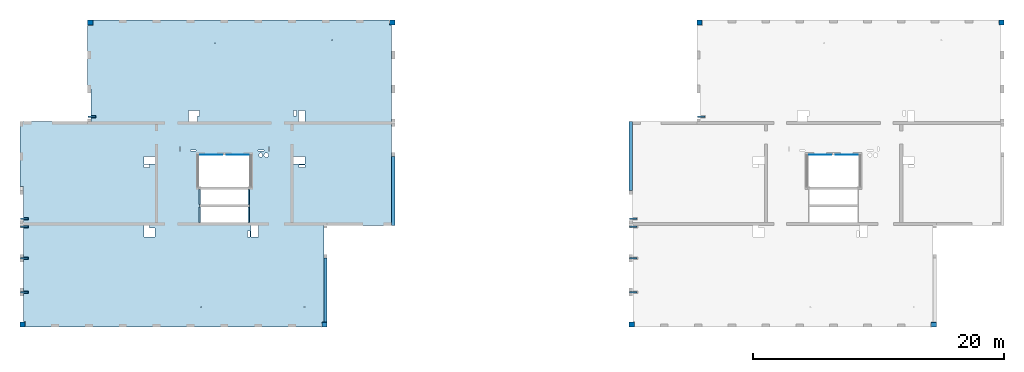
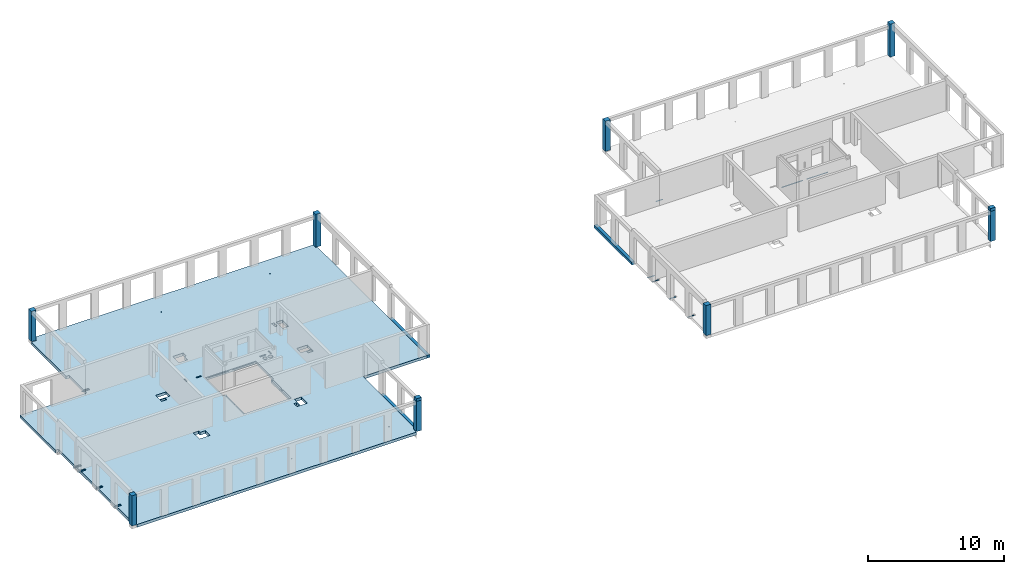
# One storey, part 1 of 8: 14 beams, 10 columns, 4 slabs, 34 openings.
"""IFC2X3 building model written with IfcOpenShell, lengths in millimetres."""

from ifc_helpers import new_model, entity, si_unit, converted_unit, derived_unit, direction, frame, frame_2d, origin, origin_2d_with_axis, place, context, subcontext, project, spatial, polyline, rectangle, circle, outline, extrude, source, transform, mapped, material, layer, layer_set, layer_usage, type_object, type_shapes, element, save


model = new_model("IFC2X3")

# Units and contexts
model_context = context("Model", 3, precision=0.01, world=origin(), true_north=direction((6.12303176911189e-17, 1.0)))
body_context = subcontext(model_context, "Body", "Model", "MODEL_VIEW")
ifc_project = project(units=[si_unit("LENGTHUNIT", "METRE", prefix="MILLI"), si_unit("AREAUNIT", "SQUARE_METRE"), si_unit("VOLUMEUNIT", "CUBIC_METRE"), converted_unit("PLANEANGLEUNIT", "DEGREE", entity("IfcRatioMeasure", 0.0174532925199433), si_unit("PLANEANGLEUNIT", "RADIAN"), dimensions=[0, 0, 0, 0, 0, 0, 0]), si_unit("MASSUNIT", "GRAM", prefix="KILO"), derived_unit("MASSDENSITYUNIT", [(si_unit("MASSUNIT", "GRAM", prefix="KILO"), 1), (si_unit("LENGTHUNIT", "METRE"), -3)]), si_unit("TIMEUNIT", "SECOND"), si_unit("FREQUENCYUNIT", "HERTZ"), si_unit("THERMODYNAMICTEMPERATUREUNIT", "DEGREE_CELSIUS"), derived_unit("THERMALTRANSMITTANCEUNIT", [(si_unit("MASSUNIT", "GRAM", prefix="KILO"), 1), (si_unit("THERMODYNAMICTEMPERATUREUNIT", "KELVIN"), -1), (si_unit("TIMEUNIT", "SECOND"), -3)]), derived_unit("VOLUMETRICFLOWRATEUNIT", [(si_unit("LENGTHUNIT", "METRE"), 3), (si_unit("TIMEUNIT", "SECOND"), -1)]), si_unit("ELECTRICCURRENTUNIT", "AMPERE"), si_unit("ELECTRICVOLTAGEUNIT", "VOLT"), si_unit("POWERUNIT", "WATT"), si_unit("FORCEUNIT", "NEWTON", prefix="KILO"), si_unit("ILLUMINANCEUNIT", "LUX"), si_unit("LUMINOUSFLUXUNIT", "LUMEN"), si_unit("LUMINOUSINTENSITYUNIT", "CANDELA"), derived_unit("USERDEFINED", [(si_unit("MASSUNIT", "GRAM", prefix="KILO"), -1), (si_unit("LENGTHUNIT", "METRE"), -2), (si_unit("TIMEUNIT", "SECOND"), 3), (si_unit("LUMINOUSFLUXUNIT", "LUMEN"), 1)]), derived_unit("LINEARVELOCITYUNIT", [(si_unit("LENGTHUNIT", "METRE"), 1), (si_unit("TIMEUNIT", "SECOND"), -1)]), si_unit("PRESSUREUNIT", "PASCAL"), derived_unit("USERDEFINED", [(si_unit("LENGTHUNIT", "METRE"), -2), (si_unit("MASSUNIT", "GRAM", prefix="KILO"), 1), (si_unit("TIMEUNIT", "SECOND"), -2)])], contexts=[model_context])

# Site, building, storey
site_placement = place(None, origin())
site = spatial("IfcSite", under=ifc_project, at=site_placement, Name="Default", CompositionType="ELEMENT")
building_placement = place(site_placement, origin())
building = spatial("IfcBuilding", under=site, at=building_placement, Name="niet gebruiken", CompositionType="ELEMENT")
storey_placement = place(building_placement, frame((0.0, 0.0, 48240.0)))
storey = spatial("IfcBuildingStorey", under=building, at=storey_placement, Name="16 zestiende verdieping", CompositionType="ELEMENT", Elevation=48240.0)

# Columns
ifc_material_1 = material(Name="NLRS_f2_beton prefab")
column_type_1 = type_object("IfcColumnType", Name="410x410", PredefinedType="COLUMN", material=ifc_material_1)
shared_shape_1 = source(origin(), body_context, "Body", "SweptSolid", [
    extrude(rectangle(XDim=410.0, YDim=410.0, at=origin_2d_with_axis()), frame((0.0, 0.0, 48170.0), z_axis=(0.0, 0.0, 1.0), x_axis=(0.0, -1.0, 0.0)), (0.0, 0.0, 1.0), 2699.99999999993),
])
type_shapes(column_type_1, [shared_shape_1])
for number, where, name in (
    (1, (99795.0, 28961.0, -48240.0), "NLRS_28. kolom vierkant_gen:410x410"),
    (2, (81105.0, 53051.0, -48240.0), "NLRS_28. kolom vierkant_gen:410x410"),
    (3, (51195.0, 28961.0, -48240.0), "NLRS_28. kolom vierkant_gen:410x410"),
    (4, (32505.0, 53051.0, -48240.0), "NLRS_28. kolom vierkant_gen:410x410"),
):
    element("IfcColumn", number, at=place(storey_placement, frame(where)), inside=storey, type_object=column_type_1, material=ifc_material_1, Name=name, ObjectType="410x410", context=body_context, shape_type="MappedRepresentation", body=[
        mapped(shared_shape_1, transform((0.0, 0.0, 0.0), scale=1.0)),
    ])
column_type_2 = type_object("IfcColumnType", Name="410x410", PredefinedType="COLUMN", material=ifc_material_1)
shared_shape_2 = source(origin(), body_context, "Body", "SweptSolid", [
    extrude(rectangle(XDim=410.0, YDim=410.0, at=origin_2d_with_axis()), frame((0.0, 0.0, 48170.0), z_axis=(0.0, 0.0, 1.0), x_axis=(0.0, -1.0, 0.0)), (0.0, 0.0, 1.0), 2700.0),
])
type_shapes(column_type_2, [shared_shape_2])
for number, where, z_axis, x_axis, name in (
    (5, (75705.0, 28961.0, -48240.0), (0.0, 0.0, 1.0), (0.0, 1.0, 0.0), "NLRS_28. kolom vierkant_gen1:410x410"),
    (6, (27105.0, 28961.0, -48240.0), (0.0, 0.0, 1.0), (0.0, 1.0, 0.0), "NLRS_28. kolom vierkant_gen1:410x410"),
):
    element("IfcColumn", number, at=place(storey_placement, frame(where, z_axis=z_axis, x_axis=x_axis)), inside=storey, type_object=column_type_2, material=ifc_material_1, Name=name, ObjectType="410x410", context=body_context, shape_type="MappedRepresentation", body=[
        mapped(shared_shape_2, transform((0.0, 0.0, 0.0), scale=1.0)),
    ])
column_type_3 = type_object("IfcColumnType", Name="410x410", PredefinedType="COLUMN", material=ifc_material_1)
shared_shape_3 = source(origin(), body_context, "Body", "SweptSolid", [
    extrude(rectangle(XDim=410.000000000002, YDim=409.999999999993, at=origin_2d_with_axis()), frame((105195.0, 53051.0, 48170.0), z_axis=(0.0, 0.0, 1.0), x_axis=(0.0, -1.0, 0.0)), (0.0, 0.0, 1.0), 2950.00000000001),
])
type_shapes(column_type_3, [shared_shape_3])
column_1_placement = place(storey_placement, frame((0.0, 0.0, -48240.0)))
element("IfcColumn", 7, at=column_1_placement, inside=storey, type_object=column_type_3, material=ifc_material_1, Name="NLRS_28. kolom vierkant_gen:410x410", ObjectType="410x410", context=body_context, shape_type="MappedRepresentation", body=[
    mapped(shared_shape_3, transform((0.0, 0.0, 0.0), scale=1.0)),
])
column_type_4 = type_object("IfcColumnType", Name="410x410", PredefinedType="COLUMN", material=ifc_material_1)
shared_shape_4 = source(origin(), body_context, "Body", "SweptSolid", [
    extrude(rectangle(XDim=410.000000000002, YDim=410.000000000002, at=frame_2d((8.66862137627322e-12, 0.0), x_axis=(1.0, 0.0))), frame((56595.0, 53051.0, 48170.0), z_axis=(0.0, 0.0, 1.0), x_axis=(0.0, -1.0, 0.0)), (0.0, 0.0, 1.0), 2950.00000000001),
])
type_shapes(column_type_4, [shared_shape_4])
column_2_placement = place(storey_placement, frame((0.0, 0.0, -48240.0)))
element("IfcColumn", 8, at=column_2_placement, inside=storey, type_object=column_type_4, material=ifc_material_1, Name="NLRS_28. kolom vierkant_gen:410x410", ObjectType="410x410", context=body_context, shape_type="MappedRepresentation", body=[
    mapped(shared_shape_4, transform((0.0, 0.0, 0.0), scale=1.0)),
])
column_type_5 = type_object("IfcColumnType", Name="410x360", PredefinedType="COLUMN", material=ifc_material_1)
shared_shape_5 = source(origin(), body_context, "Body", "SweptSolid", [
    extrude(rectangle(XDim=360.0, YDim=409.999999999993, at=origin_2d_with_axis()), frame((99795.0, 28936.0, 50870.0), z_axis=(0.0, 0.0, 1.0), x_axis=(0.0, -1.0, 0.0)), (0.0, 0.0, 1.0), 250.000000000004),
])
type_shapes(column_type_5, [shared_shape_5])
column_3_placement = place(storey_placement, frame((0.0, 0.0, -48240.0)))
element("IfcColumn", 9, at=column_3_placement, inside=storey, type_object=column_type_5, material=ifc_material_1, Name="NLRS_28. kolom vierkant_gen:410x360", ObjectType="410x360", context=body_context, shape_type="MappedRepresentation", body=[
    mapped(shared_shape_5, transform((0.0, 0.0, 0.0), scale=1.0)),
])
column_type_6 = type_object("IfcColumnType", Name="410x360", PredefinedType="COLUMN", material=ifc_material_1)
shared_shape_6 = source(origin(), body_context, "Body", "SweptSolid", [
    extrude(rectangle(XDim=360.0, YDim=410.000000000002, at=origin_2d_with_axis()), frame((51195.0, 28936.0, 50870.0), z_axis=(0.0, 0.0, 1.0), x_axis=(0.0, -1.0, 0.0)), (0.0, 0.0, 1.0), 250.000000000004),
])
type_shapes(column_type_6, [shared_shape_6])
column_4_placement = place(storey_placement, frame((0.0, 0.0, -48240.0)))
element("IfcColumn", 10, at=column_4_placement, inside=storey, type_object=column_type_6, material=ifc_material_1, Name="NLRS_28. kolom vierkant_gen:410x360", ObjectType="410x360", context=body_context, shape_type="MappedRepresentation", body=[
    mapped(shared_shape_6, transform((0.0, 0.0, 0.0), scale=1.0)),
])

# Beams
ifc_material_2 = material(Name="NLRS_h2_staal")
beam_type_1 = type_object("IfcBeamType", Name="ligger stripstaal RECT_120x10", PredefinedType="BEAM", material=ifc_material_2)
shared_shape_7 = source(origin(), body_context, "Body", "SweptSolid", [
    extrude(rectangle(XDim=599.999999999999, YDim=120.0, at=origin_2d_with_axis()), frame((0.0, 0.0, -5.0), z_axis=(0.0, 0.0, 1.0), x_axis=(-1.0, 0.0, 0.0)), (0.0, 0.0, 1.0), 9.99999999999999),
    extrude(rectangle(XDim=599.999999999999, YDim=120.0, at=origin_2d_with_axis()), frame((0.0, 0.0, -5.0), z_axis=(0.0, 0.0, 1.0), x_axis=(-1.0, 0.0, 0.0)), (0.0, 0.0, 1.0), 9.99999999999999),
])
type_shapes(beam_type_1, [shared_shape_7])
for number, where, name in (
    (11, (75835.0, 31556.0, -115.0), "NLRS_28.11_SF_WPB_stalen ligger stripstaal_gen:ligger stripstaal RECT_120x10"),
    (12, (75835.0, 34256.0, -115.0), "NLRS_28.11_SF_WPB_stalen ligger stripstaal_gen:ligger stripstaal RECT_120x10"),
    (13, (75835.0, 36766.0, -115.0), "NLRS_28.11_SF_WPB_stalen ligger stripstaal_gen:ligger stripstaal RECT_120x10"),
    (14, (27235.0, 31556.0, -115.0), "NLRS_28.11_SF_WPB_stalen ligger stripstaal_gen:ligger stripstaal RECT_120x10"),
    (15, (27235.0, 34256.0, -115.0), "NLRS_28.11_SF_WPB_stalen ligger stripstaal_gen:ligger stripstaal RECT_120x10"),
    (16, (27235.0, 36766.0, -115.0), "NLRS_28.11_SF_WPB_stalen ligger stripstaal_gen:ligger stripstaal RECT_120x10"),
):
    element("IfcBeam", number, at=place(storey_placement, frame(where)), inside=storey, type_object=beam_type_1, material=ifc_material_2, Name=name, ObjectType="ligger stripstaal RECT_120x10", context=body_context, shape_type="MappedRepresentation", body=[
        mapped(shared_shape_7, transform((0.0, 0.0, 0.0), scale=1.0)),
    ])
beam_type_2 = type_object("IfcBeamType", Name="NLRS_28.11_SF_WPB_Halfen 40-22_gen:ligger stripstaal RECT_100x10", PredefinedType="BEAM")
beam_1_placement = place(storey_placement, frame((89865.0, 42496.0, -160.0)))
element("IfcBeam", 17, at=beam_1_placement, inside=storey, type_object=beam_type_2, material=ifc_material_2, Name="NLRS_28.11_SF_WPB_Halfen 40-22_gen:ligger stripstaal RECT_100x10", ObjectType="NLRS_28.11_SF_WPB_Halfen 40-22_gen:ligger stripstaal RECT_100x10", context=body_context, shape_type="SweptSolid", body=[
    extrude(outline(polyline([(-20.0, -8.0), (-9.0, -8.0), (-9.0, 0.0), (-11.0, 0.0), (-11.0, -6.0), (-18.0, -6.0), (-18.0, 13.0), (18.0, 13.0), (18.0, -6.0), (11.0, -6.0), (11.0, 0.0), (9.0, 0.0), (9.0, -8.0), (20.0, -8.0), (20.0, 15.0), (-20.0, 15.0), (-20.0, -8.0)])), frame((0.0, 8.0, 20.0), z_axis=(1.0, 0.0, 0.0), x_axis=(0.0, 0.0, -1.0)), (0.0, 0.0, 1.0), 1760.00000000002),
])
beam_2_placement = place(storey_placement, frame((91975.0, 42496.0, -160.0)))
element("IfcBeam", 18, at=beam_2_placement, inside=storey, type_object=beam_type_2, material=ifc_material_2, Name="NLRS_28.11_SF_WPB_Halfen 40-22_gen:ligger stripstaal RECT_100x10", ObjectType="NLRS_28.11_SF_WPB_Halfen 40-22_gen:ligger stripstaal RECT_100x10", context=body_context, shape_type="SweptSolid", body=[
    extrude(outline(polyline([(-20.0, -8.0), (-9.0, -8.0), (-9.0, 0.0), (-11.0, 0.0), (-11.0, -6.0), (-18.0, -6.0), (-18.0, 13.0), (18.0, 13.0), (18.0, -6.0), (11.0, -6.0), (11.0, 0.0), (9.0, 0.0), (9.0, -8.0), (20.0, -8.0), (20.0, 15.0), (-20.0, 15.0), (-20.0, -8.0)])), frame((0.0, 8.0, 20.0), z_axis=(1.0, 0.0, 0.0), x_axis=(0.0, 0.0, -1.0)), (0.0, 0.0, 1.0), 1760.0),
])
for number, where, name in (
    (19, (41264.9998491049, 42496.0, -160.0), "NLRS_28.11_SF_WPB_Halfen 40-22_gen:ligger stripstaal RECT_100x10"),
    (20, (43374.999849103, 42496.0, -160.0), "NLRS_28.11_SF_WPB_Halfen 40-22_gen:ligger stripstaal RECT_100x10"),
):
    element("IfcBeam", number, at=place(storey_placement, frame(where)), inside=storey, type_object=beam_type_2, material=ifc_material_2, Name=name, ObjectType="NLRS_28.11_SF_WPB_Halfen 40-22_gen:ligger stripstaal RECT_100x10", context=body_context, shape_type="SweptSolid", body=[
        extrude(outline(polyline([(-20.0, -8.0), (-9.0, -8.0), (-9.0, 0.0), (-11.0, 0.0), (-11.0, -6.0), (-18.0, -6.0), (-18.0, 13.0), (18.0, 13.0), (18.0, -6.0), (11.0, -6.0), (11.0, 0.0), (9.0, 0.0), (9.0, -8.0), (20.0, -8.0), (20.0, 15.0), (-20.0, 15.0), (-20.0, -8.0)])), frame((0.0, 8.0, 20.0), z_axis=(1.0, 0.0, 0.0), x_axis=(0.0, 0.0, -1.0)), (0.0, 0.0, 1.0), 1760.00000000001),
    ])
beam_type_3 = type_object("IfcBeamType", Name="ligger stripstaal RECT_120x10", PredefinedType="BEAM", material=ifc_material_2)
shared_shape_8 = source(origin(), body_context, "Body", "SweptSolid", [
    extrude(rectangle(XDim=120.0, YDim=600.000000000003, at=origin_2d_with_axis()), frame((0.0, 0.0, -5.0), z_axis=(0.0, 0.0, 1.0), x_axis=(0.0, 1.0, 0.0)), (0.0, 0.0, 1.0), 9.99999999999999),
    extrude(rectangle(XDim=120.0, YDim=600.000000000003, at=origin_2d_with_axis()), frame((0.0, 0.0, -5.0), z_axis=(0.0, 0.0, 1.0), x_axis=(0.0, 1.0, 0.0)), (0.0, 0.0, 1.0), 9.99999999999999),
])
type_shapes(beam_type_3, [shared_shape_8])
for number, where, name in (
    (21, (75835.0, 37386.0, -115.0), "NLRS_28.11_SF_WPB_stalen ligger stripstaal_gen:ligger stripstaal RECT_120x10"),
    (22, (81235.0, 45521.0, -115.0), "NLRS_28.11_SF_WPB_stalen ligger stripstaal_gen:ligger stripstaal RECT_120x10"),
    (23, (27235.0, 37386.0, -115.0), "NLRS_28.11_SF_WPB_stalen ligger stripstaal_gen:ligger stripstaal RECT_120x10"),
    (24, (32635.0, 45521.0, -115.0), "NLRS_28.11_SF_WPB_stalen ligger stripstaal_gen:ligger stripstaal RECT_120x10"),
):
    element("IfcBeam", number, at=place(storey_placement, frame(where)), inside=storey, type_object=beam_type_3, material=ifc_material_2, Name=name, ObjectType="ligger stripstaal RECT_120x10", context=body_context, shape_type="MappedRepresentation", body=[
        mapped(shared_shape_8, transform((0.0, 0.0, 0.0), scale=1.0)),
    ])

# Slab, openings
ifc_material_3 = material(Name="NLRS_f2_beton ihwg")
ifc_layer = layer(ifc_material_3, 250.0)
ifc_layer_set = layer_set([ifc_layer], Name="Floor:NLRS_23.21_FL_beton ihwg d=250_gen")
ifc_layer_usage_1 = layer_usage(ifc_layer_set, "AXIS3", "POSITIVE", 0.0)
slab_1_placement = place(storey_placement, frame((26900.0, 28756.0, -340.0)))
slab_1 = element("IfcSlab", 25, at=slab_1_placement, inside=storey, material=ifc_layer_usage_1, Name="Floor:NLRS_23.21_FL_beton ihwg d=250_gen", ObjectType="Floor:NLRS_23.21_FL_beton ihwg d=250_gen", PredefinedType="FLOOR", context=body_context, shape_type="SweptSolid", body=[
    extrude(outline(polyline([(8994.99996701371, 12250.0), (-14665.0, 12250.0), (-14665.0, 11840.0), (-14805.0, 11840.0), (-14805.0, 4060.0), (-14825.0, 4060.0), (-14825.0, -4150.0), (-9425.0, -4150.0), (-9425.0, -11890.0), (-9265.0, -11890.0), (-9265.0, -12250.0), (14395.0, -12250.0), (14395.0, -11820.0), (14535.0, -11820.0), (14535.0, -4060.0), (14555.0, -4060.0), (14555.0, -1040.0), (14825.0, -1040.0), (14825.0, 4150.0), (9155.0, 4150.0), (9155.0, 6750.0), (9425.0, 6750.0), (9425.0, 11820.0), (8994.99996701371, 11820.0), (8994.99996701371, 12250.0)])), frame((14825.0, 12250.0, 250.0), z_axis=(0.0, 0.0, -1.0), x_axis=(-1.0, 0.0, 0.0)), (0.0, 0.0, 1.0), 250.000000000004),
])
opening_1_placement = place(storey_placement, frame((26900.0, 28756.0, -340.0)))
element("IfcOpeningElement", 26, at=opening_1_placement, cuts=slab_1, ObjectType="Opening", context=body_context, shape_type="SweptSolid", body=[
    extrude(circle(Radius=37.5, at=frame_2d((-7875.0, -10650.0), x_axis=(1.0, 0.0))), frame((14825.0, 12250.0, 250.0), z_axis=(0.0, 0.0, -1.0), x_axis=(-1.0, 0.0, 0.0)), (0.0, 0.0, 1.0), 250.000000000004),
])
opening_2_placement = place(storey_placement, frame((26900.0, 28756.0, -340.0)))
element("IfcOpeningElement", 27, at=opening_2_placement, cuts=slab_1, ObjectType="Opening", context=body_context, shape_type="SweptSolid", body=[
    extrude(circle(Radius=37.5, at=frame_2d((-10075.0, 10650.0), x_axis=(1.0, 0.0))), frame((14825.0, 12250.0, 250.0), z_axis=(0.0, 0.0, -1.0), x_axis=(-1.0, 0.0, 0.0)), (0.0, 0.0, 1.0), 250.000000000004),
])
opening_3_placement = place(storey_placement, frame((26900.0, 28756.0, -340.0)))
element("IfcOpeningElement", 28, at=opening_3_placement, cuts=slab_1, ObjectType="Opening", context=body_context, shape_type="SweptSolid", body=[
    extrude(circle(Radius=37.5, at=frame_2d((-725.0, 10400.0), x_axis=(1.0, 0.0))), frame((14825.0, 12250.0, 250.0), z_axis=(0.0, 0.0, -1.0), x_axis=(-1.0, 0.0, 0.0)), (0.0, 0.0, 1.0), 250.000000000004),
])
opening_4_placement = place(storey_placement, frame((26900.0, 28756.0, -340.0)))
element("IfcOpeningElement", 29, at=opening_4_placement, cuts=slab_1, ObjectType="Opening", context=body_context, shape_type="SweptSolid", body=[
    extrude(circle(Radius=37.5, at=frame_2d((375.0, -10650.0), x_axis=(1.0, 0.0))), frame((14825.0, 12250.0, 250.0), z_axis=(0.0, 0.0, -1.0), x_axis=(-1.0, 0.0, 0.0)), (0.0, 0.0, 1.0), 250.000000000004),
])
opening_5_placement = place(slab_1_placement, origin())
element("IfcOpeningElement", 30, at=opening_5_placement, cuts=slab_1, ObjectType="Opening", context=body_context, shape_type="SweptSolid", body=[
    extrude(rectangle(XDim=110.000000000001, YDim=1220.0, at=origin_2d_with_axis()), frame((14344.9999671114, 10380.0, 210.0)), (0.0, 0.0, 1.0), 39.9999999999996),
])
opening_6_placement = place(slab_1_placement, origin())
element("IfcOpeningElement", 31, at=opening_6_placement, cuts=slab_1, ObjectType="Opening", context=body_context, shape_type="SweptSolid", body=[
    extrude(rectangle(XDim=110.000000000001, YDim=1220.0, at=origin_2d_with_axis()), frame((18255.0, 10380.0, 210.0)), (0.0, 0.0, 1.0), 39.9999999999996),
])
opening_7_placement = place(slab_1_placement, origin())
element("IfcOpeningElement", 32, at=opening_7_placement, cuts=slab_1, ObjectType="Opening", context=body_context, shape_type="SweptSolid", body=[
    extrude(rectangle(XDim=110.000000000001, YDim=1220.0, at=origin_2d_with_axis()), frame((18255.0, 8960.0, 210.0)), (0.0, 0.0, 1.0), 39.9999999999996),
])
opening_8_placement = place(slab_1_placement, origin())
element("IfcOpeningElement", 33, at=opening_8_placement, cuts=slab_1, ObjectType="Opening", context=body_context, shape_type="SweptSolid", body=[
    extrude(rectangle(XDim=110.000000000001, YDim=1220.0, at=origin_2d_with_axis()), frame((14344.9999671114, 8960.0, 210.0)), (0.0, 0.0, 1.0), 39.9999999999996),
])
opening_9_placement = place(slab_1_placement, origin())
element("IfcOpeningElement", 34, at=opening_9_placement, cuts=slab_1, ObjectType="Opening", context=body_context, shape_type="SweptSolid", body=[
    extrude(rectangle(XDim=400.000000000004, YDim=200.000000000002, at=origin_2d_with_axis()), frame((470.0, 8630.0, 220.0)), (0.0, 0.0, 1.0), 30.0000000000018),
])
opening_10_placement = place(slab_1_placement, origin())
element("IfcOpeningElement", 35, at=opening_10_placement, cuts=slab_1, ObjectType="Opening", context=body_context, shape_type="SweptSolid", body=[
    extrude(rectangle(XDim=200.000000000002, YDim=400.000000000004, at=origin_2d_with_axis()), frame((490.0, 8000.0, 220.0), z_axis=(0.0, 0.0, 1.0), x_axis=(0.0, -1.0, 0.0)), (0.0, 0.0, 1.0), 30.0000000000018),
])
opening_11_placement = place(slab_1_placement, origin())
element("IfcOpeningElement", 36, at=opening_11_placement, cuts=slab_1, ObjectType="Opening", context=body_context, shape_type="SweptSolid", body=[
    extrude(rectangle(XDim=200.000000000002, YDim=400.000000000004, at=origin_2d_with_axis()), frame((490.0, 5500.0, 220.0), z_axis=(0.0, 0.0, 1.0), x_axis=(0.0, -1.0, 0.0)), (0.0, 0.0, 1.0), 30.0000000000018),
])
opening_12_placement = place(slab_1_placement, origin())
element("IfcOpeningElement", 37, at=opening_12_placement, cuts=slab_1, ObjectType="Opening", context=body_context, shape_type="SweptSolid", body=[
    extrude(rectangle(XDim=200.000000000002, YDim=400.000000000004, at=origin_2d_with_axis()), frame((490.0, 2800.0, 220.0), z_axis=(0.0, 0.0, 1.0), x_axis=(0.0, -1.0, 0.0)), (0.0, 0.0, 1.0), 30.0000000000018),
])
opening_13_placement = place(slab_1_placement, origin())
element("IfcOpeningElement", 38, at=opening_13_placement, cuts=slab_1, ObjectType="Opening", context=body_context, shape_type="SweptSolid", body=[
    extrude(rectangle(XDim=400.000000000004, YDim=199.999999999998, at=origin_2d_with_axis()), frame((5870.0, 16765.0, 220.0)), (0.0, 0.0, 1.0), 30.0000000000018),
])
opening_14_placement = place(slab_1_placement, origin())
element("IfcOpeningElement", 39, at=opening_14_placement, cuts=slab_1, ObjectType="Opening", context=body_context, shape_type="SweptSolid", body=[
    extrude(rectangle(XDim=900.000000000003, YDim=729.999999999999, at=origin_2d_with_axis()), frame((13800.0, 16850.0, 0.0), z_axis=(0.0, 0.0, 1.0), x_axis=(0.0, 1.0, 0.0)), (0.0, 0.0, 1.0), 250.000000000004),
])
opening_15_placement = place(slab_1_placement, origin())
element("IfcOpeningElement", 40, at=opening_15_placement, cuts=slab_1, ObjectType="Opening", context=body_context, shape_type="SweptSolid", body=[
    extrude(rectangle(XDim=170.000000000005, YDim=450.000000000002, at=origin_2d_with_axis()), frame((14250.0, 17075.0, 0.0), z_axis=(0.0, 0.0, 1.0), x_axis=(-1.0, 0.0, 0.0)), (0.0, 0.0, 1.0), 250.000000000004),
])
opening_16_placement = place(slab_1_placement, origin())
element("IfcOpeningElement", 41, at=opening_16_placement, cuts=slab_1, ObjectType="Opening", context=body_context, shape_type="SweptSolid", body=[
    extrude(rectangle(XDim=900.000000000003, YDim=700.000000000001, at=origin_2d_with_axis()), frame((10325.0, 7550.0, 0.0), z_axis=(0.0, 0.0, 1.0), x_axis=(-1.0, 0.0, 0.0)), (0.0, 0.0, 1.0), 250.000000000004),
])
opening_17_placement = place(slab_1_placement, origin())
element("IfcOpeningElement", 42, at=opening_17_placement, cuts=slab_1, ObjectType="Opening", context=body_context, shape_type="SweptSolid", body=[
    extrude(rectangle(XDim=200.000000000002, YDim=450.000000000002, at=origin_2d_with_axis()), frame((10100.0, 8000.0, 0.0), z_axis=(0.0, 0.0, 1.0), x_axis=(0.0, -1.0, 0.0)), (0.0, 0.0, 1.0), 250.000000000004),
])
opening_18_placement = place(slab_1_placement, origin())
element("IfcOpeningElement", 43, at=opening_18_placement, cuts=slab_1, ObjectType="Opening", context=body_context, shape_type="SweptSolid", body=[
    extrude(rectangle(XDim=900.000000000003, YDim=600.000000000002, at=origin_2d_with_axis()), frame((10325.0, 13330.0, 0.0), z_axis=(0.0, 0.0, 1.0), x_axis=(-1.0, 0.0, 0.0)), (0.0, 0.0, 1.0), 250.000000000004),
])
opening_19_placement = place(slab_1_placement, origin())
element("IfcOpeningElement", 44, at=opening_19_placement, cuts=slab_1, ObjectType="Opening", context=body_context, shape_type="SweptSolid", body=[
    extrude(rectangle(XDim=900.000000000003, YDim=499.999999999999, at=origin_2d_with_axis()), frame((22475.0, 16850.0, 0.0), z_axis=(0.0, 0.0, 1.0), x_axis=(0.0, 1.0, 0.0)), (0.0, 0.0, 1.0), 250.000000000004),
])
opening_20_placement = place(slab_1_placement, origin())
element("IfcOpeningElement", 45, at=opening_20_placement, cuts=slab_1, ObjectType="Opening", context=body_context, shape_type="SweptSolid", body=[
    extrude(rectangle(XDim=899.999999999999, YDim=600.000000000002, at=origin_2d_with_axis()), frame((18729.9818996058, 7650.0, 0.0), z_axis=(0.0, 0.0, 1.0), x_axis=(0.0, 1.0, 0.0)), (0.0, 0.0, 1.0), 250.000000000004),
])
opening_21_placement = place(slab_1_placement, origin())
element("IfcOpeningElement", 46, at=opening_21_placement, cuts=slab_1, ObjectType="Opening", context=body_context, shape_type="SweptSolid", body=[
    extrude(rectangle(XDim=900.000000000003, YDim=600.000000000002, at=origin_2d_with_axis()), frame((22275.0, 13330.0, 0.0), z_axis=(0.0, 0.0, 1.0), x_axis=(-1.0, 0.0, 0.0)), (0.0, 0.0, 1.0), 250.000000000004),
])
opening_22_placement = place(slab_1_placement, origin())
element("IfcOpeningElement", 47, at=opening_22_placement, cuts=slab_1, ObjectType="Opening", context=body_context, shape_type="SweptSolid", body=[
    extrude(rectangle(XDim=1760.00000000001, YDim=23.0000000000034, at=origin_2d_with_axis()), frame((15244.9998491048, 13751.5, 180.0)), (0.0, 0.0, 1.0), 40.0000000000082),
])
opening_23_placement = place(slab_1_placement, origin())
element("IfcOpeningElement", 48, at=opening_23_placement, cuts=slab_1, ObjectType="Opening", context=body_context, shape_type="SweptSolid", body=[
    extrude(rectangle(XDim=1760.00000000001, YDim=23.0000000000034, at=origin_2d_with_axis()), frame((17354.999849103, 13751.5, 180.0)), (0.0, 0.0, 1.0), 40.0000000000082),
])
opening_24_placement = place(slab_1_placement, origin())
element("IfcOpeningElement", 49, at=opening_24_placement, cuts=slab_1, ObjectType="Opening", context=body_context, shape_type="SweptSolid", body=[
    extrude(rectangle(XDim=100.000000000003, YDim=340.000000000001, at=origin_2d_with_axis()), frame((19865.0, 14210.0, 0.0), z_axis=(0.0, 0.0, 1.0), x_axis=(-1.0, 0.0, 0.0)), (0.0, 0.0, 1.0), 250.000000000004),
])
opening_25_placement = place(slab_1_placement, origin())
element("IfcOpeningElement", 50, at=opening_25_placement, cuts=slab_1, ObjectType="Opening", context=body_context, shape_type="SweptSolid", body=[
    extrude(rectangle(XDim=100.000000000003, YDim=490.000000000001, at=origin_2d_with_axis()), frame((19225.0, 14090.0, 0.0), z_axis=(0.0, 0.0, 1.0), x_axis=(0.0, -1.0, 0.0)), (0.0, 0.0, 1.0), 250.000000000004),
])
opening_26_placement = place(slab_1_placement, origin())
element("IfcOpeningElement", 51, at=opening_26_placement, cuts=slab_1, ObjectType="Opening", context=body_context, shape_type="SweptSolid", body=[
    extrude(rectangle(XDim=100.000000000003, YDim=440.000000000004, at=origin_2d_with_axis()), frame((13805.0, 14090.0, 0.0), z_axis=(0.0, 0.0, 1.0), x_axis=(0.0, -1.0, 0.0)), (0.0, 0.0, 1.0), 250.000000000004),
])
opening_27_placement = place(slab_1_placement, origin())
element("IfcOpeningElement", 52, at=opening_27_placement, cuts=slab_1, ObjectType="Opening", context=body_context, shape_type="SweptSolid", body=[
    extrude(rectangle(XDim=100.000000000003, YDim=340.000000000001, at=origin_2d_with_axis()), frame((12755.0, 14210.0, 0.0), z_axis=(0.0, 0.0, 1.0), x_axis=(-1.0, 0.0, 0.0)), (0.0, 0.0, 1.0), 250.000000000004),
])
opening_28_placement = place(slab_1_placement, origin())
element("IfcOpeningElement", 53, at=opening_28_placement, cuts=slab_1, ObjectType="Opening", context=body_context, shape_type="SweptSolid", body=[
    extrude(rectangle(XDim=230.0, YDim=450.000000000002, at=origin_2d_with_axis()), frame((10100.0000865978, 12845.0002270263, 0.0), z_axis=(0.0, 0.0, 1.0), x_axis=(0.0, -1.0, 0.0)), (0.0, 0.0, 1.0), 250.000000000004),
])
opening_29_placement = place(slab_1_placement, origin())
element("IfcOpeningElement", 54, at=opening_29_placement, cuts=slab_1, ObjectType="Opening", context=body_context, shape_type="SweptSolid", body=[
    extrude(rectangle(XDim=220.000000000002, YDim=450.000000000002, at=origin_2d_with_axis()), frame((21935.0, 17075.0, 0.0), z_axis=(0.0, 0.0, 1.0), x_axis=(-1.0, 0.0, 0.0)), (0.0, 0.0, 1.0), 250.000000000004),
])
opening_30_placement = place(slab_1_placement, origin())
element("IfcOpeningElement", 55, at=opening_30_placement, cuts=slab_1, ObjectType="Opening", context=body_context, shape_type="SweptSolid", body=[
    extrude(rectangle(XDim=220.000000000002, YDim=450.000000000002, at=origin_2d_with_axis()), frame((22500.0, 12840.0, 0.0), z_axis=(0.0, 0.0, 1.0), x_axis=(0.0, -1.0, 0.0)), (0.0, 0.0, 1.0), 250.000000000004),
])
opening_31_placement = place(slab_1_placement, origin())
element("IfcOpeningElement", 56, at=opening_31_placement, cuts=slab_1, ObjectType="Opening", context=body_context, shape_type="SweptSolid", body=[
    extrude(rectangle(XDim=220.000000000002, YDim=450.000000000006, at=origin_2d_with_axis()), frame((18240.0, 7425.0, 0.0)), (0.0, 0.0, 1.0), 250.000000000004),
])
opening_32_placement = place(slab_1_placement, origin())
element("IfcOpeningElement", 57, at=opening_32_placement, cuts=slab_1, ObjectType="Opening", context=body_context, shape_type="SweptSolid", body=[
    extrude(circle(Radius=177.5, at=origin_2d_with_axis()), frame((19650.0, 13720.0, 0.0)), (0.0, 0.0, 1.0), 250.000000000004),
])
opening_33_placement = place(slab_1_placement, origin())
element("IfcOpeningElement", 58, at=opening_33_placement, cuts=slab_1, ObjectType="Opening", context=body_context, shape_type="SweptSolid", body=[
    extrude(circle(Radius=157.5, at=origin_2d_with_axis()), frame((19200.0, 13720.0, 0.0)), (0.0, 0.0, 1.0), 250.000000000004),
])
opening_34_placement = place(slab_1_placement, frame((16300.0, 10378.75, 250.0)))
element("IfcOpeningElement", 59, at=opening_34_placement, cuts=slab_1, Name="Floor:NLRS_23.21_FL_beton ihwg d=250_gen:2", ObjectType="Opening", context=body_context, shape_type="SweptSolid", body=[
    extrude(outline(polyline([(-1899.99998355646, -2028.75000000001), (1900.00001644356, -2028.75000000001), (1900.00001644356, -808.750000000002), (1999.9999835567, -808.750000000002), (1999.9999835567, -608.75), (1900.00001644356, -608.75), (1900.00001644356, 751.250000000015), (2134.99998355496, 751.250000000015), (2134.99998355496, 3361.24999999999), (-2135.00001644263, 3361.24999999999), (-2135.00001644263, 751.250000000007), (-1899.99998355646, 751.250000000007), (-1899.99998355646, -608.750000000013), (-2000.00001644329, -608.750000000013), (-2000.00001644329, -808.750000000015), (-1899.99998355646, -808.750000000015), (-1899.99998355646, -2028.75000000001)])), frame((0.0, 0.0, 0.0), z_axis=(0.0, 0.0, -1.0), x_axis=(-1.0, 0.0, 0.0)), (0.0, 0.0, 1.0), 250.000000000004),
])

# Slabs
ifc_layer_usage_2 = layer_usage(ifc_layer_set, "AXIS3", "POSITIVE", 0.0)
slab_2_placement = place(storey_placement, origin())
element("IfcSlab", 60, at=slab_2_placement, inside=storey, material=ifc_layer_usage_2, Name="Floor:NLRS_23.21_FL_beton ihwg d=250_gen", ObjectType="Floor:NLRS_23.21_FL_beton ihwg d=250_gen", PredefinedType="FLOOR", context=body_context, shape_type="SweptSolid", body=[
    extrude(rectangle(XDim=5499.99999999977, YDim=250.000000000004, at=frame_2d((0.0, 4.33431068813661e-12), x_axis=(1.0, 0.0))), frame((75625.0, 42406.0, -90.0), z_axis=(0.0, 0.0, -1.0), x_axis=(0.0, 1.0, 0.0)), (0.0, 0.0, 1.0), 250.000000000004),
])
ifc_layer_usage_3 = layer_usage(ifc_layer_set, "AXIS3", "POSITIVE", 0.0)
slab_3_placement = place(storey_placement, origin())
element("IfcSlab", 61, at=slab_3_placement, inside=storey, material=ifc_layer_usage_3, Name="Floor:NLRS_23.21_FL_beton ihwg d=250_gen", ObjectType="Floor:NLRS_23.21_FL_beton ihwg d=250_gen", PredefinedType="FLOOR", context=body_context, shape_type="SweptSolid", body=[
    extrude(rectangle(XDim=5140.00000000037, YDim=250.000065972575, at=frame_2d((-2.27373675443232e-12, 0.0), x_axis=(1.0, 0.0))), frame((51275.0, 31686.0, -90.0), z_axis=(0.0, 0.0, -1.0), x_axis=(0.0, 1.0, 0.0)), (0.0, 0.0, 1.0), 250.000000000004),
])
ifc_layer_usage_4 = layer_usage(ifc_layer_set, "AXIS3", "POSITIVE", 0.0)
slab_4_placement = place(storey_placement, origin())
element("IfcSlab", 62, at=slab_4_placement, inside=storey, material=ifc_layer_usage_4, Name="Floor:NLRS_23.21_FL_beton ihwg d=250_gen", ObjectType="Floor:NLRS_23.21_FL_beton ihwg d=250_gen", PredefinedType="FLOOR", context=body_context, shape_type="SweptSolid", body=[
    extrude(rectangle(XDim=5500.00000000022, YDim=250.000000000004, at=frame_2d((0.0, -4.33431068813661e-12), x_axis=(1.0, 0.0))), frame((56675.0, 39606.0, -90.0), z_axis=(0.0, 0.0, -1.0), x_axis=(0.0, 1.0, 0.0)), (0.0, 0.0, 1.0), 250.000000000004),
])

save(model, "model.ifc")
